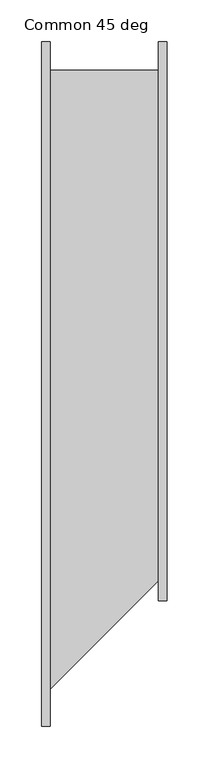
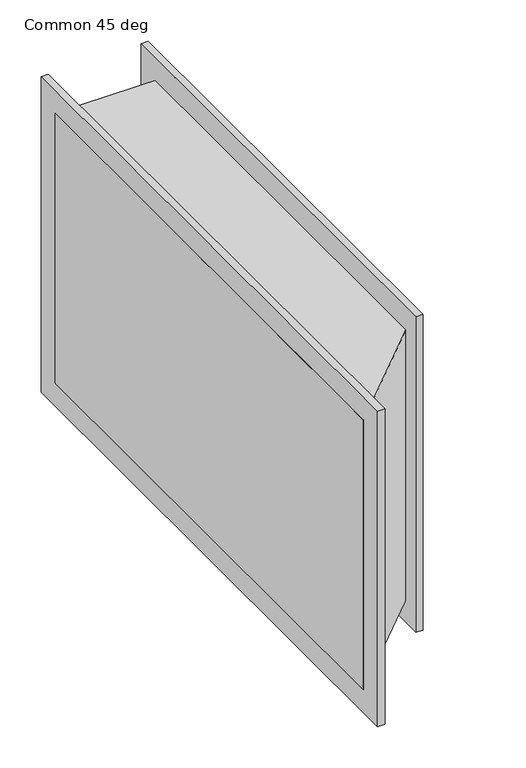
"""IFC4 building model written with IfcOpenShell, lengths in millimetres: duct fitting geometry, 041_角型置換 - フランジ - 角度 : Common 45 deg."""

from ifc_helpers import new_model, si_unit, frame, origin, place, context, project, spatial, polyline, outline, extrude, source, transform, mapped, element, save


def common_45_deg_431b9730(model_context):
    return source(origin(), model_context, "Body", "SweptSolid", [
        extrude(outline(polyline([(0.0, -375.0), (0.0, 375.0), (150.0, 375.0), (150.0, -225.0), (0.0, -375.0)])), frame((0.0, 0.0, -200.0), z_axis=(0.0, 0.0, 1.0), x_axis=(1.0, 0.0, 0.0)), (0.0, 0.0, 1.0), 400.0),
        extrude(outline(polyline([(150.0, 409.0), (150.0, -259.0), (140.0, -259.0), (140.0, 409.0), (150.0, 409.0)])), frame((0.0, 0.0, -234.0), z_axis=(0.0, 0.0, 1.0), x_axis=(1.0, 0.0, 0.0)), (0.0, 0.0, 1.0), 468.0),
        extrude(outline(polyline([(10.0, 409.0), (10.0, -409.0), (0.0, -409.0), (0.0, 409.0), (10.0, 409.0)])), frame((0.0, 0.0, -234.0), z_axis=(0.0, 0.0, 1.0), x_axis=(1.0, 0.0, 0.0)), (0.0, 0.0, 1.0), 468.0),
    ])


if __name__ == "__main__":
    model = new_model("IFC4")
    model_context = context("Model", 3, world=origin())
    ifc_project = project(units=[si_unit("LENGTHUNIT", "METRE", prefix="MILLI")], contexts=[model_context])
    site = spatial("IfcSite", under=ifc_project)
    building = spatial("IfcBuilding", under=site)
    placement = place(None, origin())
    common_45_deg_shape = common_45_deg_431b9730(model_context)
    element("IfcDuctFitting", 1, ObjectType="041_角型置換 - フランジ - 角度 : Common 45 deg", at=placement, inside=building, context=model_context, shape_type="MappedRepresentation", body=[
        mapped(common_45_deg_shape, transform((0.0, 0.0, 0.0), x_axis=(1.0, 0.0, 0.0), y_axis=(0.0, 1.0, 0.0), z_axis=(0.0, 0.0, 1.0))),
    ])
    save(model, "model.ifc")
